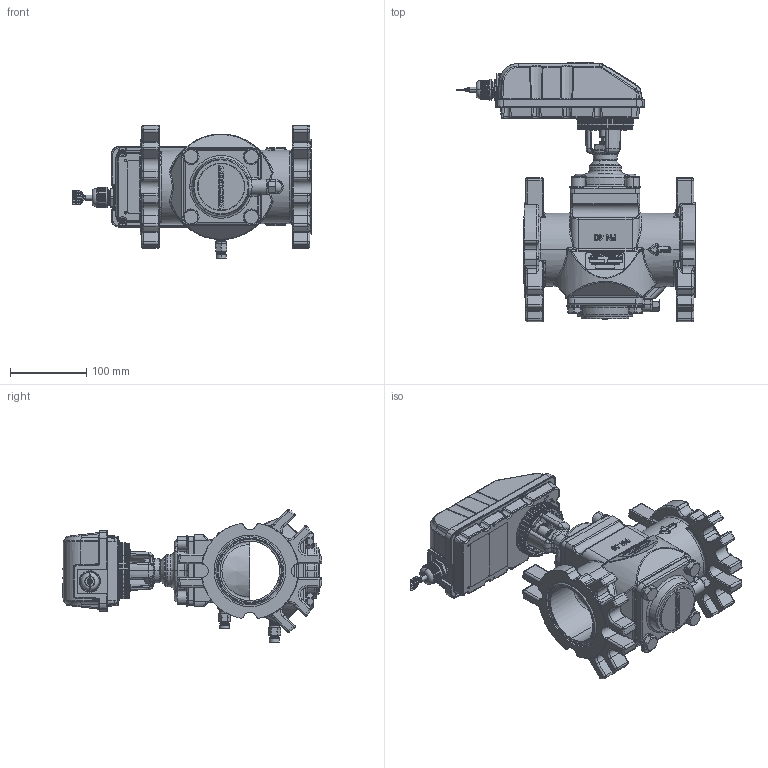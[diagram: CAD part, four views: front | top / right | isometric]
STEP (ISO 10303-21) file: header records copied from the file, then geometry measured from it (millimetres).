
FILE_DESCRIPTION (( 'STEP AP203' ), '1' );
FILE_NAME ('SM.3.0.B.3.0.0.0.STEP', '2025-09-24T13:42:42', ( '' ), ( '' ), 'SwSTEP 2.0', 'SolidWorks 2025', '' );
FILE_SCHEMA (( 'CONFIG_CONTROL_DESIGN' ));
Products named in the file (1): SM.3.0.B.3.0.0.0
Bounding box: 313.66 x 339.88 x 173.93 mm (x, y, z)
Surface area: 353688 mm2 (no closed solid volume)
Topology: 0 solids, 168 shells, 3590 faces, 11811 edges, 8056 vertices
Faces by surface type: cylinder 1109, plane 806, bspline 707, torus 459, cone 334, sphere 175
Entity records: 172083 total; most frequent: CARTESIAN_POINT 79937, ORIENTED_EDGE 19140, DIRECTION 17139, EDGE_CURVE 11596, VERTEX_POINT 8009, AXIS2_PLACEMENT_3D 6576, VECTOR 3987, LINE 3987
